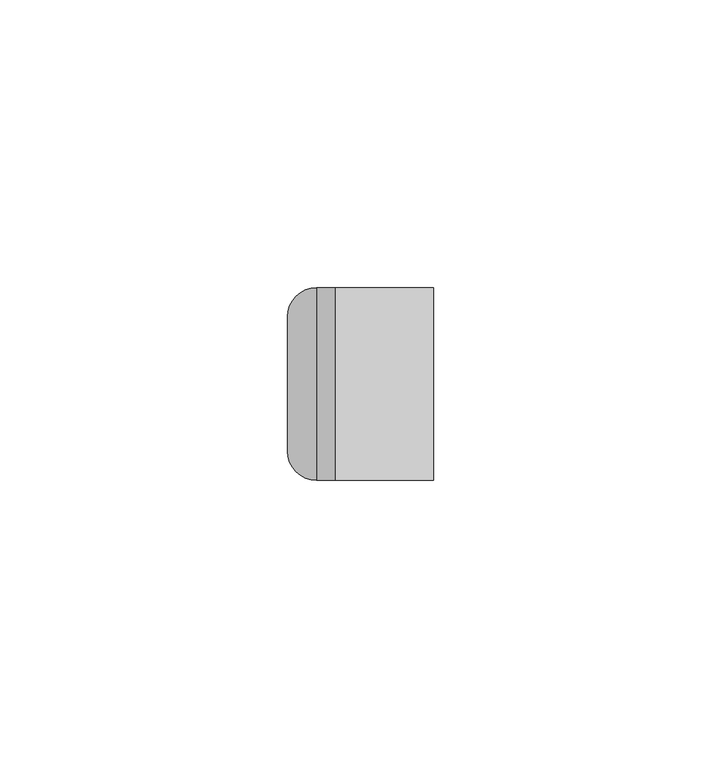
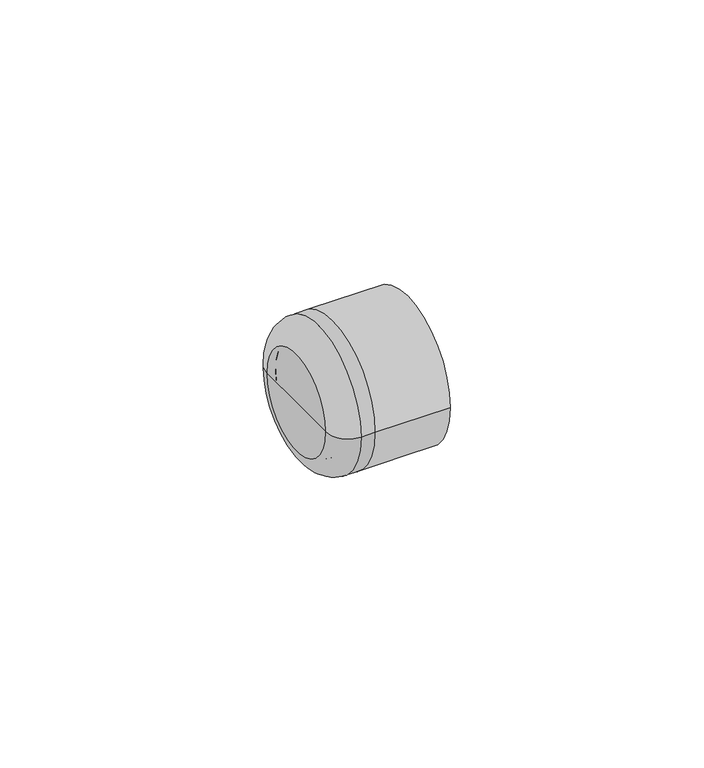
"""IFC4 building model written with IfcOpenShell, lengths in millimetres: pipe fitting geometry, 09_Заглушка : Белый цвет."""

from ifc_helpers import new_model, si_unit, point, frame, origin, place, context, project, spatial, polyline, circle_curve, ellipse_curve, trimmed, source, transform, mapped, element, save
from ifc_brep_helpers import plane_surface, cylinder_surface, revolved_surface, advanced_brep


def pipe_fitting_1f838b72(model_context):
    return source(origin(), model_context, "Body", "AdvancedBrep", [
        advanced_brep(
        [(17.0, -16.75, 0.0), (17.0, 16.75, 0.0), (17.0, 12.5, 0.0), (17.0, -12.5, 0.0), (0.0, -16.75, 0.0), (0.0, 16.75, 0.0), (0.0, 12.5, 0.0), (0.0, -12.5, 0.0), (-8.37, -11.6721604, 0.0), (-8.37, 11.6721604, 0.0), (-3.2921604, 16.75, 0.0), (-3.2921604, -16.75, 0.0), (-8.37, 0.0, 0.0), (-6.37, -11.13, 0.0), (-6.37, 11.13, 0.0), (-6.37, 0.0, 0.0), (-5.0, -12.5, 0.0), (-5.0, 12.5, 0.0)],
        [
            (0, 1, circle_curve(frame((17.0, 0.0, 0.0), z_axis=(1.0, 0.0, 0.0), x_axis=(0.0, 1.0, 0.0)), 16.75)),
            (1, 0, circle_curve(frame((17.0, 0.0, 0.0), z_axis=(1.0, 0.0, 0.0), x_axis=(0.0, 1.0, 0.0)), 16.75)),
            (2, 3, circle_curve(frame((17.0, 0.0, 0.0), z_axis=(-1.0, 0.0, 0.0), x_axis=(0.0, 1.0, 0.0)), 12.5)),
            (3, 2, circle_curve(frame((17.0, 0.0, 0.0), z_axis=(-1.0, 0.0, 0.0), x_axis=(0.0, 1.0, 0.0)), 12.5)),
            (0, 4),
            (4, 5, circle_curve(frame((0.0, 0.0, 0.0), z_axis=(1.0, 0.0, 0.0), x_axis=(0.0, 1.0, 0.0)), 16.75)),
            (5, 1),
            (5, 4, circle_curve(frame((0.0, 0.0, 0.0), z_axis=(1.0, 0.0, 0.0), x_axis=(0.0, 1.0, 0.0)), 16.75)),
            (2, 6),
            (6, 7, circle_curve(frame((0.0, 0.0, 0.0), z_axis=(-1.0, 0.0, 0.0), x_axis=(0.0, 1.0, 0.0)), 12.5)),
            (7, 3),
            (7, 6, circle_curve(frame((0.0, 0.0, 0.0), z_axis=(-1.0, 0.0, 0.0), x_axis=(0.0, 1.0, 0.0)), 12.5)),
            (8, 9, circle_curve(frame((-8.37, 0.0, 0.0), z_axis=(1.0, 0.0, 0.0), x_axis=(0.0, 1.0, 0.0)), 11.6721604)),
            (9, 10, circle_curve(frame((-3.2921604, 11.6721604, 0.0), z_axis=(0.0, 0.0, -1.0), x_axis=(1.0, 0.0, 0.0)), 5.0778396)),
            (10, 11, circle_curve(frame((-3.2921604, 0.0, 0.0), z_axis=(-1.0, 0.0, 0.0), x_axis=(0.0, 1.0, 0.0)), 16.75)),
            (11, 8, circle_curve(frame((-3.2921604, -11.6721604, 0.0), z_axis=(0.0, 0.0, -1.0), x_axis=(1.0, 0.0, 0.0)), 5.0778396)),
            (9, 8, circle_curve(frame((-8.37, 0.0, 0.0), z_axis=(1.0, 0.0, 0.0), x_axis=(0.0, 1.0, 0.0)), 11.6721604)),
            (11, 10, circle_curve(frame((-3.2921604, 0.0, 0.0), z_axis=(-1.0, 0.0, 0.0), x_axis=(0.0, 1.0, 0.0)), 16.75)),
            (8, 12),
            (12, 9),
            (13, 14, circle_curve(frame((-6.37, 0.0, 0.0), z_axis=(1.0, 0.0, 0.0), x_axis=(0.0, 1.0, 0.0)), 11.13)),
            (14, 15),
            (15, 13),
            (14, 13, circle_curve(frame((-6.37, 0.0, 0.0), z_axis=(1.0, 0.0, 0.0), x_axis=(0.0, 1.0, 0.0)), 11.13)),
            (13, 16, circle_curve(frame((-5.0, -11.13, 0.0), z_axis=(0.0, 0.0, 1.0), x_axis=(1.0, 0.0, 0.0)), 1.37)),
            (16, 17, circle_curve(frame((-5.0, 0.0, 0.0), z_axis=(1.0, 0.0, 0.0), x_axis=(0.0, 1.0, 0.0)), 12.5)),
            (17, 14, circle_curve(frame((-5.0, 11.13, 0.0), z_axis=(0.0, 0.0, 1.0), x_axis=(1.0, 0.0, 0.0)), 1.37)),
            (17, 16, circle_curve(frame((-5.0, 0.0, 0.0), z_axis=(1.0, 0.0, 0.0), x_axis=(0.0, 1.0, 0.0)), 12.5)),
            (16, 7),
            (6, 17),
            (10, 5),
            (4, 11),
        ],
        [
            plane_surface(frame((17.0, 16.75, 0.0), z_axis=(1.0, 0.0, 0.0), x_axis=(0.0, 0.0, 1.0))),
            cylinder_surface(frame((0.0, 0.0, 0.0), z_axis=(1.0, 0.0, 0.0), x_axis=(0.0, 1.0, 0.0)), 16.75),
            revolved_surface(polyline([(17.0, 12.5, 0.0), (0.0, 12.5, 0.0)]), (0.0, 0.0, 0.0), (1.0, 0.0, 0.0)),
            revolved_surface(trimmed(ellipse_curve(frame((-3.2921604, 11.6721604, 0.0), z_axis=(0.0, 0.0, 1.0), x_axis=(1.0, 0.0, 0.0)), 5.0778396, 5.0778396), [point((-3.2921604, 16.75, 0.0))], [point((-8.37, 11.6721604, 0.0))], True, "CARTESIAN"), (-8.37, 0.0, 0.0), (-1.0, 0.0, 0.0)),
            plane_surface(frame((-8.37, 0.0, 0.0), z_axis=(-1.0, 0.0, 0.0), x_axis=(0.0, 1.0, 0.0))),
            plane_surface(frame((-6.37, 0.0, 0.0), z_axis=(1.0, 0.0, 0.0), x_axis=(0.0, 1.0, 0.0))),
            revolved_surface(trimmed(ellipse_curve(frame((-5.0, 11.13, 0.0), z_axis=(0.0, 0.0, -1.0), x_axis=(1.0, 0.0, 0.0)), 1.37, 1.37), [point((-6.37, 11.13, 0.0))], [point((-5.0, 12.5, 0.0))], True, "CARTESIAN"), (-8.37, 0.0, 0.0), (-1.0, 0.0, 0.0)),
            revolved_surface(polyline([(-5.0, 12.5, 0.0), (0.0, 12.5, 0.0)]), (-8.37, 0.0, 0.0), (-1.0, 0.0, 0.0)),
            cylinder_surface(frame((-8.37, 0.0, 0.0), z_axis=(-1.0, 0.0, 0.0), x_axis=(0.0, 1.0, 0.0)), 16.75),
        ],
        [
            (0, [[1, 2], [3, 4]]),
            (1, [[-1, 5, 6, 7]]),
            (1, [[-2, -7, 8, -5]]),
            (2, [[9, 10, 11, -3]]),
            (2, [[-9, -4, -11, 12]]),
            (3, [[13, 14, 15, 16]]),
            (3, [[-14, 17, -16, 18]]),
            (4, [[-13, 19, 20]]),
            (4, [[-17, -20, -19]]),
            (5, [[21, 22, 23]]),
            (5, [[-22, 24, -23]]),
            (6, [[-21, 25, 26, 27]]),
            (6, [[-24, -27, 28, -25]]),
            (7, [[-26, 29, -10, 30]]),
            (7, [[-28, -30, -12, -29]]),
            (8, [[-15, 31, -6, 32]]),
            (8, [[-18, -32, -8, -31]]),
        ],
    ),
    ])


if __name__ == "__main__":
    model = new_model("IFC4")
    model_context = context("Model", 3, world=origin())
    ifc_project = project(units=[si_unit("LENGTHUNIT", "METRE", prefix="MILLI")], contexts=[model_context])
    site = spatial("IfcSite", under=ifc_project)
    building = spatial("IfcBuilding", under=site)
    placement = place(None, origin())
    pipe_fitting_shape = pipe_fitting_1f838b72(model_context)
    element("IfcPipeFitting", 1, ObjectType="09_Заглушка : Белый цвет", at=placement, inside=building, context=model_context, shape_type="MappedRepresentation", body=[
        mapped(pipe_fitting_shape, transform((0.0, 0.0, 0.0), x_axis=(1.0, 0.0, 0.0), y_axis=(0.0, 1.0, 0.0), z_axis=(0.0, 0.0, 1.0))),
    ])
    save(model, "model.ifc")
